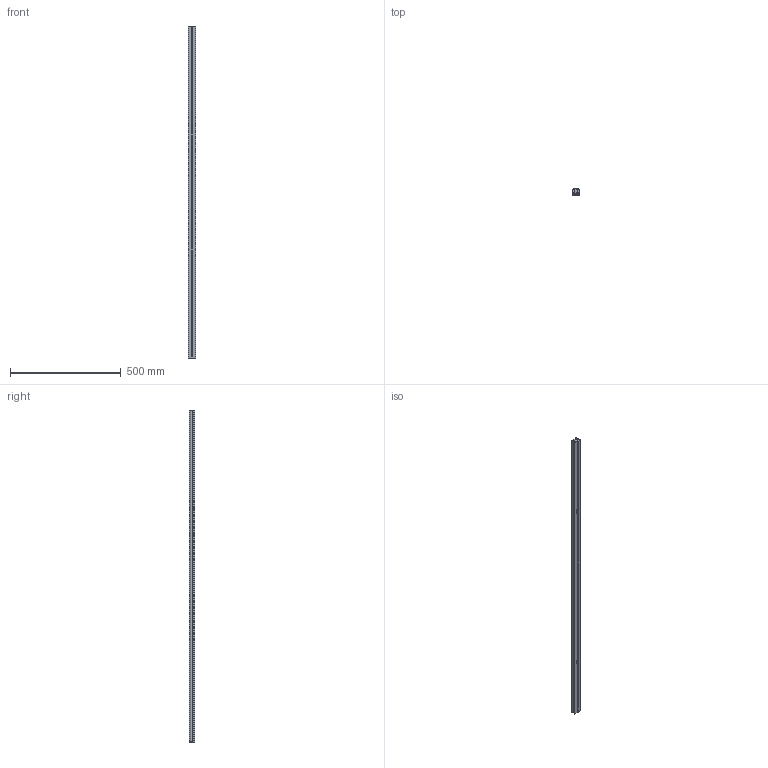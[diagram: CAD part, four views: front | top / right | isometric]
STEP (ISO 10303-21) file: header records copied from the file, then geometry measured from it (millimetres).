
FILE_DESCRIPTION (( 'STEP AP203' ), '1' );
FILE_NAME ('Linearführung_-_LFS-12-10 - L=1496.step', '2011-07-19T09:14:06', ( 'HI' ), ( '' ), 'SwSTEP 2.0', 'SolidWorks 2010', '' );
FILE_SCHEMA (( 'CONFIG_CONTROL_DESIGN' ));
Length unit declared in the file: millimetre
Products named in the file (1): Linearführung_-_LFS-12-10 - L=1496
Bounding box: 36 x 24.5 x 1496 mm (x, y, z)
Volume: 963522.6 mm3; surface area: 370101.7 mm2
Topology: 1 solids, 1 shells, 692 faces, 1842 edges, 1206 vertices
Faces by surface type: cylinder 325, plane 247, cone 120
Entity records: 28721 total; most frequent: CARTESIAN_POINT 11229, ORIENTED_EDGE 3684, DIRECTION 3530, EDGE_CURVE 1842, AXIS2_PLACEMENT_3D 1355, VERTEX_POINT 1206, EDGE_LOOP 934, LINE 820
